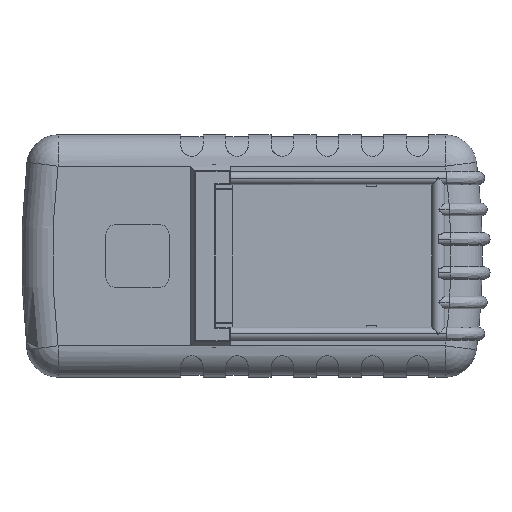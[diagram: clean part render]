
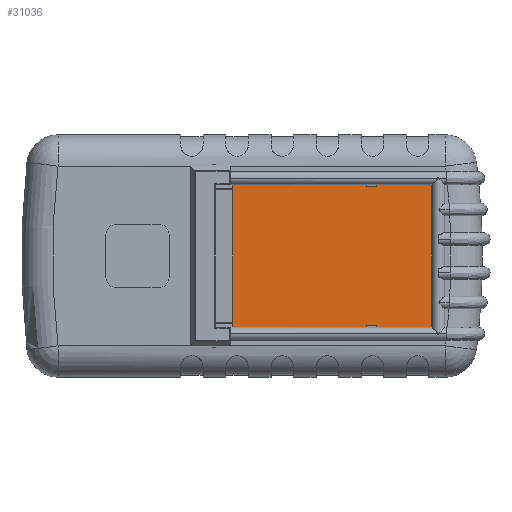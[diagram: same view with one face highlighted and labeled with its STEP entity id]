
A CAD part, front view. The second image highlights one B-rep face of the part: STEP entity #31036.
In plain terms, the highlighted planar face has unit normal (0, -1, 0).
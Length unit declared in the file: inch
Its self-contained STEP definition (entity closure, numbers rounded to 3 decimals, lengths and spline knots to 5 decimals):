
#429 = LINE ( 'NONE', #19147, #28922 ) ;
#634 = LINE ( 'NONE', #31610, #8823 ) ;
#1067 = CARTESIAN_POINT ( 'NONE',  ( 2.15422, 0.08, -1.31062 ) ) ;
#1151 = VERTEX_POINT ( 'NONE', #10338 ) ;
#1164 = EDGE_CURVE ( 'NONE', #15423, #23285, #3756, .T. ) ;
#1780 = VERTEX_POINT ( 'NONE', #26045 ) ;
#1915 = CARTESIAN_POINT ( 'NONE',  ( -0.35584, 0.08, 1.3435 ) ) ;
#2181 = DIRECTION ( 'NONE',  ( -1., 0., 0. ) ) ;
#2226 = CARTESIAN_POINT ( 'NONE',  ( -0.35584, 0.08, -1.3435 ) ) ;
#2835 = CARTESIAN_POINT ( 'NONE',  ( 3.39416, 0.08, 1.3435 ) ) ;
#3049 = LINE ( 'NONE', #33941, #16805 ) ;
#3756 = LINE ( 'NONE', #32327, #32201 ) ;
#4359 = EDGE_CURVE ( 'NONE', #23765, #28386, #35816, .T. ) ;
#4404 = VERTEX_POINT ( 'NONE', #2226 ) ;
#4442 = ORIENTED_EDGE ( 'NONE', *, *, #9220, .T. ) ;
#5033 = AXIS2_PLACEMENT_3D ( 'NONE', #13427, #35568, #19014 ) ;
#5357 = EDGE_LOOP ( 'NONE', ( #6312, #23970, #4442, #15981, #7760, #34434, #27848, #8858, #32007, #31515, #32361, #28437 ) ) ;
#5620 = DIRECTION ( 'NONE',  ( -1., 0., 0. ) ) ;
#5891 = LINE ( 'NONE', #1915, #13149 ) ;
#6098 = CARTESIAN_POINT ( 'NONE',  ( -0.35584, 0.08, -1.3435 ) ) ;
#6157 = VECTOR ( 'NONE', #5620, 39.37008 ) ;
#6206 = CARTESIAN_POINT ( 'NONE',  ( 3.39416, 0.08, 1.3435 ) ) ;
#6312 = ORIENTED_EDGE ( 'NONE', *, *, #4359, .T. ) ;
#7430 = EDGE_CURVE ( 'NONE', #10127, #15423, #634, .T. ) ;
#7760 = ORIENTED_EDGE ( 'NONE', *, *, #24423, .T. ) ;
#8286 = CARTESIAN_POINT ( 'NONE',  ( 2.15422, 0.08, 1.3435 ) ) ;
#8823 = VECTOR ( 'NONE', #15055, 39.37008 ) ;
#8858 = ORIENTED_EDGE ( 'NONE', *, *, #7430, .F. ) ;
#9183 = DIRECTION ( 'NONE',  ( -1., 0., 0. ) ) ;
#9220 = EDGE_CURVE ( 'NONE', #32571, #23580, #29033, .T. ) ;
#10018 = CARTESIAN_POINT ( 'NONE',  ( 0., 0.08, 1.31062 ) ) ;
#10127 = VERTEX_POINT ( 'NONE', #22548 ) ;
#10338 = CARTESIAN_POINT ( 'NONE',  ( 2.35422, 0.08, 1.3435 ) ) ;
#10481 = CARTESIAN_POINT ( 'NONE',  ( 2.35422, 0.08, -1.31062 ) ) ;
#11092 = CARTESIAN_POINT ( 'NONE',  ( 2.15422, 0.08, 1.31062 ) ) ;
#11299 = CARTESIAN_POINT ( 'NONE',  ( -0.35584, 0.08, 1.3435 ) ) ;
#11818 = EDGE_CURVE ( 'NONE', #10127, #1780, #31654, .T. ) ;
#13149 = VECTOR ( 'NONE', #21197, 39.37008 ) ;
#13427 = CARTESIAN_POINT ( 'NONE',  ( 0., 0.08, 0. ) ) ;
#14417 = EDGE_CURVE ( 'NONE', #1780, #28093, #429, .T. ) ;
#14788 = EDGE_CURVE ( 'NONE', #28386, #32571, #25886, .T. ) ;
#15055 = DIRECTION ( 'NONE',  ( 0., 0., 1. ) ) ;
#15423 = VERTEX_POINT ( 'NONE', #10481 ) ;
#15430 = EDGE_CURVE ( 'NONE', #1151, #23765, #17592, .T. ) ;
#15760 = FACE_OUTER_BOUND ( 'NONE', #5357, .T. ) ;
#15870 = CARTESIAN_POINT ( 'NONE',  ( 2.15422, 0.08, -1.3435 ) ) ;
#15981 = ORIENTED_EDGE ( 'NONE', *, *, #19965, .T. ) ;
#16781 = CARTESIAN_POINT ( 'NONE',  ( -0.35584, 0.08, -1.3435 ) ) ;
#16805 = VECTOR ( 'NONE', #9183, 39.37008 ) ;
#16901 = DIRECTION ( 'NONE',  ( 0., 0., -1. ) ) ;
#16954 = VECTOR ( 'NONE', #28189, 39.37008 ) ;
#17592 = LINE ( 'NONE', #21593, #24104 ) ;
#18491 = VECTOR ( 'NONE', #29164, 39.37008 ) ;
#19014 = DIRECTION ( 'NONE',  ( 0., 0., -1. ) ) ;
#19147 = CARTESIAN_POINT ( 'NONE',  ( 3.39416, 0.08, -1.3435 ) ) ;
#19581 = DIRECTION ( 'NONE',  ( 1., 0., 0. ) ) ;
#19965 = EDGE_CURVE ( 'NONE', #23580, #4404, #5891, .T. ) ;
#21197 = DIRECTION ( 'NONE',  ( 0., 0., -1. ) ) ;
#21579 = LINE ( 'NONE', #16781, #35418 ) ;
#21593 = CARTESIAN_POINT ( 'NONE',  ( 2.35422, 0.08, 0. ) ) ;
#22548 = CARTESIAN_POINT ( 'NONE',  ( 2.35422, 0.08, -1.3435 ) ) ;
#23285 = VERTEX_POINT ( 'NONE', #1067 ) ;
#23580 = VERTEX_POINT ( 'NONE', #11299 ) ;
#23592 = CARTESIAN_POINT ( 'NONE',  ( 2.15422, 0.08, 0. ) ) ;
#23765 = VERTEX_POINT ( 'NONE', #34472 ) ;
#23970 = ORIENTED_EDGE ( 'NONE', *, *, #14788, .T. ) ;
#24055 = DIRECTION ( 'NONE',  ( -1., 0., 0. ) ) ;
#24104 = VECTOR ( 'NONE', #24389, 39.37008 ) ;
#24389 = DIRECTION ( 'NONE',  ( 0., 0., -1. ) ) ;
#24423 = EDGE_CURVE ( 'NONE', #4404, #26715, #21579, .T. ) ;
#25063 = CARTESIAN_POINT ( 'NONE',  ( 2.15422, 0.08, 0. ) ) ;
#25886 = LINE ( 'NONE', #23592, #18491 ) ;
#26045 = CARTESIAN_POINT ( 'NONE',  ( 3.39416, 0.08, -1.3435 ) ) ;
#26715 = VERTEX_POINT ( 'NONE', #15870 ) ;
#27515 = EDGE_CURVE ( 'NONE', #23285, #26715, #34980, .T. ) ;
#27623 = VECTOR ( 'NONE', #24055, 39.37008 ) ;
#27643 = EDGE_CURVE ( 'NONE', #28093, #1151, #3049, .T. ) ;
#27848 = ORIENTED_EDGE ( 'NONE', *, *, #1164, .F. ) ;
#28093 = VERTEX_POINT ( 'NONE', #6206 ) ;
#28189 = DIRECTION ( 'NONE',  ( 1., 0., 0. ) ) ;
#28386 = VERTEX_POINT ( 'NONE', #11092 ) ;
#28437 = ORIENTED_EDGE ( 'NONE', *, *, #15430, .T. ) ;
#28922 = VECTOR ( 'NONE', #32909, 39.37008 ) ;
#29033 = LINE ( 'NONE', #2835, #6157 ) ;
#29164 = DIRECTION ( 'NONE',  ( 0., 0., 1. ) ) ;
#30049 = PLANE ( 'NONE',  #5033 ) ;
#31036 = ADVANCED_FACE ( 'NONE', ( #15760 ), #30049, .T. ) ;
#31515 = ORIENTED_EDGE ( 'NONE', *, *, #14417, .T. ) ;
#31610 = CARTESIAN_POINT ( 'NONE',  ( 2.35422, 0.08, 0. ) ) ;
#31654 = LINE ( 'NONE', #6098, #16954 ) ;
#32007 = ORIENTED_EDGE ( 'NONE', *, *, #11818, .T. ) ;
#32201 = VECTOR ( 'NONE', #2181, 39.37008 ) ;
#32327 = CARTESIAN_POINT ( 'NONE',  ( 0., 0.08, -1.31062 ) ) ;
#32361 = ORIENTED_EDGE ( 'NONE', *, *, #27643, .T. ) ;
#32571 = VERTEX_POINT ( 'NONE', #8286 ) ;
#32909 = DIRECTION ( 'NONE',  ( 0., 0., 1. ) ) ;
#33243 = VECTOR ( 'NONE', #16901, 39.37008 ) ;
#33941 = CARTESIAN_POINT ( 'NONE',  ( 3.39416, 0.08, 1.3435 ) ) ;
#34434 = ORIENTED_EDGE ( 'NONE', *, *, #27515, .F. ) ;
#34472 = CARTESIAN_POINT ( 'NONE',  ( 2.35422, 0.08, 1.31062 ) ) ;
#34980 = LINE ( 'NONE', #25063, #33243 ) ;
#35418 = VECTOR ( 'NONE', #19581, 39.37008 ) ;
#35568 = DIRECTION ( 'NONE',  ( 0., -1., 0. ) ) ;
#35816 = LINE ( 'NONE', #10018, #27623 ) ;
